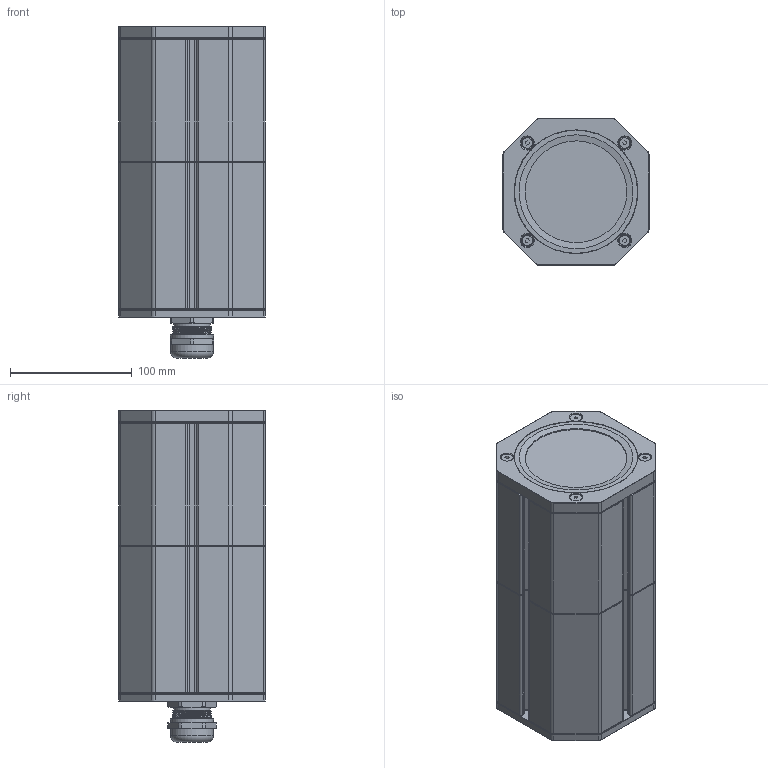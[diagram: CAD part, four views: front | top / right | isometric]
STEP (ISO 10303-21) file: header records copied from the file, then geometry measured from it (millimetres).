
FILE_DESCRIPTION(/* description */ (''),/* implementation_level */ '2;1');
FILE_NAME(/* name */ 'FG-CH87-V0-100-120-F1.1-B1.1.stp',/* time_stamp */ '2026-05-08T12:29:49+02:00',/* author */ ('roman'),/* organization */ (''),/* preprocessor_version */ 'ST-DEVELOPER v20',/* originating_system */ 'Autodesk Inventor 2024',/* authorisation */ '');
FILE_SCHEMA (('AUTOMOTIVE_DESIGN { 1 0 10303 214 3 1 1 }'));
Length unit declared in the file: millimetre
Products named in the file (16): FG-CH87-V0-100-120-F1.1-B1.1; SUB-CH87-MID-V0-100-120; CH87-BDB-V0-120; CH87-ROD-220; CH87-BDF-V0-100; SUB-CH87-BCK-V0-B1.1; CH87-CPB-V0-D32.5-RD; SKINTOP 32x1.5; Matice pruchodky M32x1,5; CH87-SL1-V0; SUB-CH87-FRT-V0-F1.1; CH87-CPF-V0-D85.5-RD; CH87-GLS; CH87-SLW; CH87-SL2-V0; DIN 7991 - M5x20
Assembly tree (26 placements, depth 3):
  FG-CH87-V0-100-120-F1.1-B1.1
    SUB-CH87-MID-V0-100-120
      CH87-BDB-V0-120
      CH87-ROD-220  x4
      CH87-SL1-V0
      CH87-BDF-V0-100
    SUB-CH87-BCK-V0-B1.1
      CH87-CPB-V0-D32.5-RD
      SKINTOP 32x1.5
      Matice pruchodky M32x1,5
    CH87-SL1-V0
    DIN 7991 - M5x20  x8
    SUB-CH87-FRT-V0-F1.1
      CH87-CPF-V0-D85.5-RD
      CH87-GLS
      CH87-SLW
    CH87-SL2-V0
Bounding box: 120 x 120 x 272.4 mm (x, y, z)
Volume: 913772.3 mm3; surface area: 512690.9 mm2
Topology: 23 solids, 23 shells, 1025 faces, 2750 edges, 1777 vertices
Faces by surface type: plane 459, cylinder 456, cone 98, torus 9, bspline 3
Full cylindrical faces by diameter (mm): 4 x4, 5 x8, 5.5 x4, 6 x8, 6.8 x20, 8.5 x4, 10 x8, 21.4 x1, 25 x1, 30 x2, 30.376 x1, 32 x6, 32.2 x1, 32.5 x1, 35.3 x2, 83 x1, 83.5 x1, 85.5 x3, 87 x5, 101 x1, 101.5 x1
Entity records: 26317 total; most frequent: CARTESIAN_POINT 5495, DIRECTION 4430, ORIENTED_EDGE 4134, EDGE_CURVE 2067, AXIS2_PLACEMENT_3D 1617, VERTEX_POINT 1340, LINE 1196, VECTOR 1196
